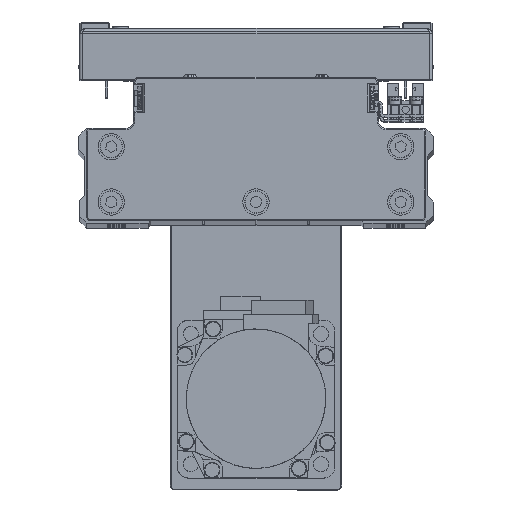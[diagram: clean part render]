
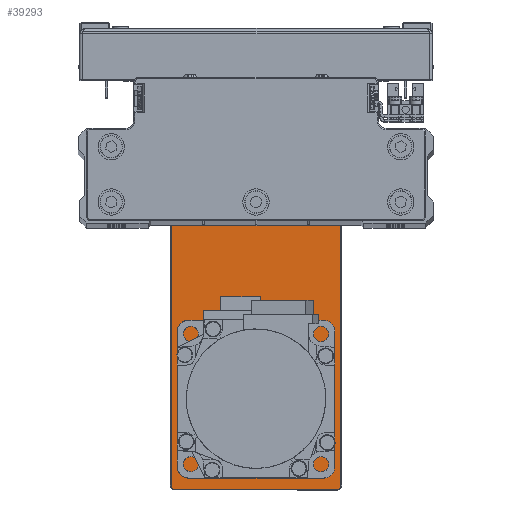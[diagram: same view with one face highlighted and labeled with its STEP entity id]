
A CAD part, top view. The second image highlights one B-rep face of the part: STEP entity #39293.
In plain terms, the highlighted planar face has unit normal (0, 0, 1) as drawn and (0, 1, 0) by its records, which use the part's own axes.
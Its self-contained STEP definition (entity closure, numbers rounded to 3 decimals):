
#157 = DIRECTION ( 'NONE',  ( 0., 0., -1. ) ) ;
#287 = VERTEX_POINT ( 'NONE', #31855 ) ;
#401 = ORIENTED_EDGE ( 'NONE', *, *, #41905, .T. ) ;
#454 = VERTEX_POINT ( 'NONE', #26423 ) ;
#604 = CARTESIAN_POINT ( 'NONE',  ( 61.051, 6., 21.967 ) ) ;
#763 = EDGE_CURVE ( 'NONE', #19746, #36203, #38804, .T. ) ;
#974 = DIRECTION ( 'NONE',  ( 0., 0., -1. ) ) ;
#992 = CARTESIAN_POINT ( 'NONE',  ( 83.5, 6., -32.2 ) ) ;
#1308 = ORIENTED_EDGE ( 'NONE', *, *, #12461, .T. ) ;
#1325 = CARTESIAN_POINT ( 'NONE',  ( 83.5, 6., -31. ) ) ;
#1407 = ORIENTED_EDGE ( 'NONE', *, *, #21605, .T. ) ;
#1682 = VECTOR ( 'NONE', #38146, 1000. ) ;
#1812 = CARTESIAN_POINT ( 'NONE',  ( 61.051, 6., 23.492 ) ) ;
#1842 = AXIS2_PLACEMENT_3D ( 'NONE', #1325, #15066, #28791 ) ;
#2843 = DIRECTION ( 'NONE',  ( 0., 0., 1. ) ) ;
#2910 = DIRECTION ( 'NONE',  ( 0., 0., 1. ) ) ;
#2967 = DIRECTION ( 'NONE',  ( 0., -1., 0. ) ) ;
#3213 = DIRECTION ( 'NONE',  ( 0., 1., 0. ) ) ;
#3242 = VERTEX_POINT ( 'NONE', #42245 ) ;
#3311 = VECTOR ( 'NONE', #31387, 1000. ) ;
#3454 = ORIENTED_EDGE ( 'NONE', *, *, #14791, .T. ) ;
#3720 = VERTEX_POINT ( 'NONE', #11106 ) ;
#3928 = LINE ( 'NONE', #17669, #3311 ) ;
#4802 = ORIENTED_EDGE ( 'NONE', *, *, #763, .T. ) ;
#5870 = EDGE_LOOP ( 'NONE', ( #17903, #16884 ) ) ;
#6336 = FACE_BOUND ( 'NONE', #42007, .T. ) ;
#6353 = AXIS2_PLACEMENT_3D ( 'NONE', #34059, #3213, #16950 ) ;
#6761 = CIRCLE ( 'NONE', #31930, 1.525 ) ;
#6918 = DIRECTION ( 'NONE',  ( 0., 0., 1. ) ) ;
#6928 = DIRECTION ( 'NONE',  ( 0., 0., -1. ) ) ;
#7410 = CARTESIAN_POINT ( 'NONE',  ( 75.992, 6., -10.076 ) ) ;
#7777 = ORIENTED_EDGE ( 'NONE', *, *, #23973, .T. ) ;
#7947 = CARTESIAN_POINT ( 'NONE',  ( 0., 6., -32.2 ) ) ;
#8391 = VERTEX_POINT ( 'NONE', #42165 ) ;
#9117 = AXIS2_PLACEMENT_3D ( 'NONE', #1812, #15557, #29277 ) ;
#9189 = AXIS2_PLACEMENT_3D ( 'NONE', #19432, #33152, #2910 ) ;
#9223 = DIRECTION ( 'NONE',  ( 0., 0., 1. ) ) ;
#9717 = FACE_BOUND ( 'NONE', #5870, .T. ) ;
#10437 = VERTEX_POINT ( 'NONE', #13815 ) ;
#10658 = LINE ( 'NONE', #24396, #1682 ) ;
#11106 = CARTESIAN_POINT ( 'NONE',  ( 75.992, 6., -7.026 ) ) ;
#12399 = DIRECTION ( 'NONE',  ( 0., 0., 1. ) ) ;
#12461 = EDGE_CURVE ( 'NONE', #25706, #287, #32124, .T. ) ;
#12723 = AXIS2_PLACEMENT_3D ( 'NONE', #18101, #31816, #974 ) ;
#13067 = DIRECTION ( 'NONE',  ( 0., 1., 0. ) ) ;
#13247 = CARTESIAN_POINT ( 'NONE',  ( -50.5, 6., 0. ) ) ;
#13342 = ORIENTED_EDGE ( 'NONE', *, *, #30444, .F. ) ;
#13815 = CARTESIAN_POINT ( 'NONE',  ( -50.5, 6., 15. ) ) ;
#14266 = AXIS2_PLACEMENT_3D ( 'NONE', #24036, #37776, #6928 ) ;
#14791 = EDGE_CURVE ( 'NONE', #39936, #3242, #42081, .T. ) ;
#14796 = CIRCLE ( 'NONE', #39968, 1.525 ) ;
#15066 = DIRECTION ( 'NONE',  ( 0., 1., 0. ) ) ;
#15401 = AXIS2_PLACEMENT_3D ( 'NONE', #13247, #26976, #40726 ) ;
#15557 = DIRECTION ( 'NONE',  ( 0., 1., 0. ) ) ;
#15590 = EDGE_CURVE ( 'NONE', #454, #41460, #6761, .T. ) ;
#15879 = VERTEX_POINT ( 'NONE', #39137 ) ;
#16687 = VECTOR ( 'NONE', #21684, 1000. ) ;
#16697 = DIRECTION ( 'NONE',  ( 0., 0., -1. ) ) ;
#16884 = ORIENTED_EDGE ( 'NONE', *, *, #32819, .F. ) ;
#16950 = DIRECTION ( 'NONE',  ( 0., 0., -1. ) ) ;
#17091 = CARTESIAN_POINT ( 'NONE',  ( -50.5, 6., 0. ) ) ;
#17280 = CARTESIAN_POINT ( 'NONE',  ( 52.5, 6., 0. ) ) ;
#17669 = CARTESIAN_POINT ( 'NONE',  ( 84.7, 6., 0. ) ) ;
#17903 = ORIENTED_EDGE ( 'NONE', *, *, #31044, .F. ) ;
#17928 = CIRCLE ( 'NONE', #43104, 1.2 ) ;
#18101 = CARTESIAN_POINT ( 'NONE',  ( 83.5, 6., 31. ) ) ;
#18837 = EDGE_CURVE ( 'NONE', #39107, #19746, #21271, .T. ) ;
#19101 = EDGE_CURVE ( 'NONE', #15879, #26912, #24027, .T. ) ;
#19262 = CARTESIAN_POINT ( 'NONE',  ( -83.5, 6., 32.2 ) ) ;
#19432 = CARTESIAN_POINT ( 'NONE',  ( 75.992, 6., -8.551 ) ) ;
#19746 = VERTEX_POINT ( 'NONE', #992 ) ;
#19960 = CARTESIAN_POINT ( 'NONE',  ( 75.992, 6., -8.551 ) ) ;
#20087 = PLANE ( 'NONE',  #38756 ) ;
#21271 = CIRCLE ( 'NONE', #1842, 1.2 ) ;
#21605 = EDGE_CURVE ( 'NONE', #36203, #15879, #17928, .T. ) ;
#21684 = DIRECTION ( 'NONE',  ( -1., 0., 0. ) ) ;
#22659 = AXIS2_PLACEMENT_3D ( 'NONE', #17280, #31008, #157 ) ;
#23133 = CARTESIAN_POINT ( 'NONE',  ( -83.5, 6., -32.2 ) ) ;
#23455 = FACE_BOUND ( 'NONE', #25330, .T. ) ;
#23605 = ORIENTED_EDGE ( 'NONE', *, *, #15590, .F. ) ;
#23973 = EDGE_CURVE ( 'NONE', #26912, #38743, #25781, .T. ) ;
#24027 = LINE ( 'NONE', #37765, #24155 ) ;
#24036 = CARTESIAN_POINT ( 'NONE',  ( 52.5, 6., 0. ) ) ;
#24155 = VECTOR ( 'NONE', #6918, 1000. ) ;
#24396 = CARTESIAN_POINT ( 'NONE',  ( 0., 6., 32.2 ) ) ;
#24818 = AXIS2_PLACEMENT_3D ( 'NONE', #17091, #30823, #12399 ) ;
#25330 = EDGE_LOOP ( 'NONE', ( #3454, #42907 ) ) ;
#25706 = VERTEX_POINT ( 'NONE', #30190 ) ;
#25734 = EDGE_LOOP ( 'NONE', ( #27512, #4802, #1407, #32572, #7777, #43116, #1308, #401 ) ) ;
#25781 = CIRCLE ( 'NONE', #6353, 1.2 ) ;
#26329 = CARTESIAN_POINT ( 'NONE',  ( 61.051, 6., 23.492 ) ) ;
#26423 = CARTESIAN_POINT ( 'NONE',  ( 61.051, 6., 25.017 ) ) ;
#26785 = DIRECTION ( 'NONE',  ( 0., 0., -1. ) ) ;
#26912 = VERTEX_POINT ( 'NONE', #28917 ) ;
#26976 = DIRECTION ( 'NONE',  ( 0., 1., 0. ) ) ;
#27512 = ORIENTED_EDGE ( 'NONE', *, *, #18837, .T. ) ;
#28518 = CIRCLE ( 'NONE', #9117, 1.525 ) ;
#28594 = EDGE_CURVE ( 'NONE', #38743, #25706, #10658, .T. ) ;
#28598 = CIRCLE ( 'NONE', #9189, 1.525 ) ;
#28791 = DIRECTION ( 'NONE',  ( 0., 0., -1. ) ) ;
#28917 = CARTESIAN_POINT ( 'NONE',  ( -84.7, 6., 31. ) ) ;
#29277 = DIRECTION ( 'NONE',  ( 0., 0., 1. ) ) ;
#29366 = EDGE_CURVE ( 'NONE', #8391, #10437, #34815, .T. ) ;
#30190 = CARTESIAN_POINT ( 'NONE',  ( 83.5, 6., 32.2 ) ) ;
#30444 = EDGE_CURVE ( 'NONE', #10437, #8391, #44241, .T. ) ;
#30823 = DIRECTION ( 'NONE',  ( 0., 1., 0. ) ) ;
#31008 = DIRECTION ( 'NONE',  ( 0., -1., 0. ) ) ;
#31044 = EDGE_CURVE ( 'NONE', #3720, #35893, #14796, .T. ) ;
#31387 = DIRECTION ( 'NONE',  ( 0., 0., -1. ) ) ;
#31816 = DIRECTION ( 'NONE',  ( 0., 1., 0. ) ) ;
#31855 = CARTESIAN_POINT ( 'NONE',  ( 84.7, 6., 31. ) ) ;
#31930 = AXIS2_PLACEMENT_3D ( 'NONE', #26329, #40072, #9223 ) ;
#32124 = CIRCLE ( 'NONE', #12723, 1.2 ) ;
#32485 = CARTESIAN_POINT ( 'NONE',  ( 84.7, 6., -31. ) ) ;
#32572 = ORIENTED_EDGE ( 'NONE', *, *, #19101, .T. ) ;
#32819 = EDGE_CURVE ( 'NONE', #35893, #3720, #28598, .T. ) ;
#33152 = DIRECTION ( 'NONE',  ( 0., 1., 0. ) ) ;
#33665 = CIRCLE ( 'NONE', #14266, 10.3 ) ;
#33689 = DIRECTION ( 'NONE',  ( 0., 1., 0. ) ) ;
#33823 = CARTESIAN_POINT ( 'NONE',  ( 0., 6., 0. ) ) ;
#34059 = CARTESIAN_POINT ( 'NONE',  ( -83.5, 6., 31. ) ) ;
#34815 = CIRCLE ( 'NONE', #15401, 15. ) ;
#35671 = EDGE_CURVE ( 'NONE', #41460, #454, #28518, .T. ) ;
#35893 = VERTEX_POINT ( 'NONE', #7410 ) ;
#35989 = CARTESIAN_POINT ( 'NONE',  ( 52.5, 6., 10.3 ) ) ;
#36203 = VERTEX_POINT ( 'NONE', #23133 ) ;
#37184 = FACE_OUTER_BOUND ( 'NONE', #25734, .T. ) ;
#37765 = CARTESIAN_POINT ( 'NONE',  ( -84.7, 6., 0. ) ) ;
#37776 = DIRECTION ( 'NONE',  ( 0., -1., 0. ) ) ;
#38146 = DIRECTION ( 'NONE',  ( 1., 0., 0. ) ) ;
#38743 = VERTEX_POINT ( 'NONE', #19262 ) ;
#38756 = AXIS2_PLACEMENT_3D ( 'NONE', #33823, #2967, #16697 ) ;
#38804 = LINE ( 'NONE', #7947, #16687 ) ;
#39107 = VERTEX_POINT ( 'NONE', #32485 ) ;
#39137 = CARTESIAN_POINT ( 'NONE',  ( -84.7, 6., -31. ) ) ;
#39280 = ORIENTED_EDGE ( 'NONE', *, *, #29366, .F. ) ;
#39293 = ADVANCED_FACE ( 'NONE', ( #40561, #9717, #23455, #37184, #6336 ), #20087, .F. ) ;
#39330 = ORIENTED_EDGE ( 'NONE', *, *, #35671, .F. ) ;
#39936 = VERTEX_POINT ( 'NONE', #35989 ) ;
#39968 = AXIS2_PLACEMENT_3D ( 'NONE', #19960, #33689, #2843 ) ;
#40072 = DIRECTION ( 'NONE',  ( 0., 1., 0. ) ) ;
#40561 = FACE_BOUND ( 'NONE', #41562, .T. ) ;
#40726 = DIRECTION ( 'NONE',  ( 0., 0., 1. ) ) ;
#41460 = VERTEX_POINT ( 'NONE', #604 ) ;
#41562 = EDGE_LOOP ( 'NONE', ( #23605, #39330 ) ) ;
#41905 = EDGE_CURVE ( 'NONE', #287, #39107, #3928, .T. ) ;
#42007 = EDGE_LOOP ( 'NONE', ( #13342, #39280 ) ) ;
#42081 = CIRCLE ( 'NONE', #22659, 10.3 ) ;
#42165 = CARTESIAN_POINT ( 'NONE',  ( -50.5, 6., -15. ) ) ;
#42245 = CARTESIAN_POINT ( 'NONE',  ( 52.5, 6., -10.3 ) ) ;
#42907 = ORIENTED_EDGE ( 'NONE', *, *, #44530, .T. ) ;
#43104 = AXIS2_PLACEMENT_3D ( 'NONE', #43934, #13067, #26785 ) ;
#43116 = ORIENTED_EDGE ( 'NONE', *, *, #28594, .T. ) ;
#43934 = CARTESIAN_POINT ( 'NONE',  ( -83.5, 6., -31. ) ) ;
#44241 = CIRCLE ( 'NONE', #24818, 15. ) ;
#44530 = EDGE_CURVE ( 'NONE', #3242, #39936, #33665, .T. ) ;
